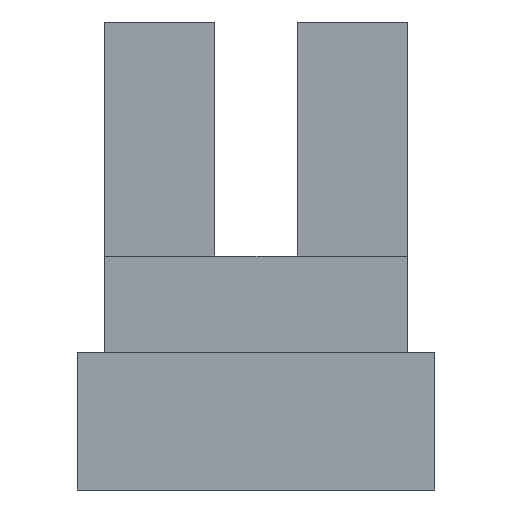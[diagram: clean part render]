
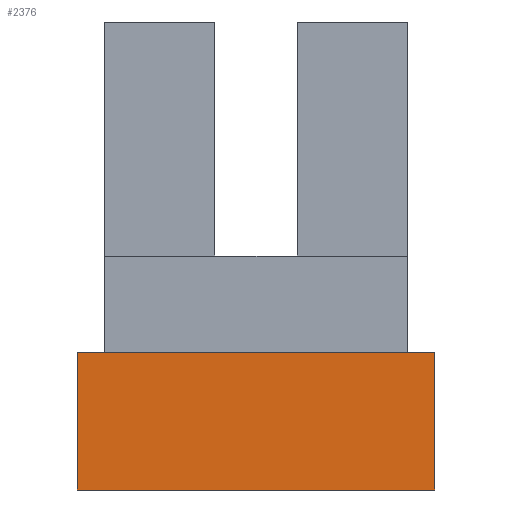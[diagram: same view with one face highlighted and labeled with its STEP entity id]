
A CAD part, left-side view. The second image highlights one B-rep face of the part: STEP entity #2376.
In plain terms, the highlighted planar face has unit normal (-1, 0, 0).
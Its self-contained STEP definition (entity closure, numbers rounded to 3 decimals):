
#1055 = PLANE('',#1056);
#1056 = AXIS2_PLACEMENT_3D('',#1057,#1058,#1059);
#1057 = CARTESIAN_POINT('',(0.,0.,10.));
#1058 = DIRECTION('',(0.,0.,1.));
#1059 = DIRECTION('',(1.,0.,-0.));
#1975 = EDGE_CURVE('',#1976,#1978,#1980,.T.);
#1976 = VERTEX_POINT('',#1977);
#1977 = CARTESIAN_POINT('',(0.,0.,10.));
#1978 = VERTEX_POINT('',#1979);
#1979 = CARTESIAN_POINT('',(0.,26.,10.));
#1980 = SURFACE_CURVE('',#1981,(#1985,#1992),.PCURVE_S1.);
#1981 = LINE('',#1982,#1983);
#1982 = CARTESIAN_POINT('',(0.,0.,10.));
#1983 = VECTOR('',#1984,1.);
#1984 = DIRECTION('',(-0.,1.,0.));
#1985 = PCURVE('',#1055,#1986);
#1986 = DEFINITIONAL_REPRESENTATION('',(#1987),#1991);
#1987 = LINE('',#1988,#1989);
#1988 = CARTESIAN_POINT('',(0.,0.));
#1989 = VECTOR('',#1990,1.);
#1990 = DIRECTION('',(0.,1.));
#1991 = ( GEOMETRIC_REPRESENTATION_CONTEXT(2) 
PARAMETRIC_REPRESENTATION_CONTEXT() REPRESENTATION_CONTEXT('2D SPACE',''
  ) );
#1992 = PCURVE('',#1993,#1998);
#1993 = PLANE('',#1994);
#1994 = AXIS2_PLACEMENT_3D('',#1995,#1996,#1997);
#1995 = CARTESIAN_POINT('',(0.,0.,0.));
#1996 = DIRECTION('',(1.,0.,-0.));
#1997 = DIRECTION('',(0.,0.,1.));
#1998 = DEFINITIONAL_REPRESENTATION('',(#1999),#2003);
#1999 = LINE('',#2000,#2001);
#2000 = CARTESIAN_POINT('',(10.,0.));
#2001 = VECTOR('',#2002,1.);
#2002 = DIRECTION('',(0.,-1.));
#2003 = ( GEOMETRIC_REPRESENTATION_CONTEXT(2) 
PARAMETRIC_REPRESENTATION_CONTEXT() REPRESENTATION_CONTEXT('2D SPACE',''
  ) );
#2021 = PLANE('',#2022);
#2022 = AXIS2_PLACEMENT_3D('',#2023,#2024,#2025);
#2023 = CARTESIAN_POINT('',(0.,0.,0.));
#2024 = DIRECTION('',(-0.,1.,0.));
#2025 = DIRECTION('',(0.,0.,1.));
#2075 = PLANE('',#2076);
#2076 = AXIS2_PLACEMENT_3D('',#2077,#2078,#2079);
#2077 = CARTESIAN_POINT('',(0.,26.,0.));
#2078 = DIRECTION('',(-0.,1.,0.));
#2079 = DIRECTION('',(0.,0.,1.));
#2376 = ADVANCED_FACE('',(#2377),#1993,.F.);
#2377 = FACE_BOUND('',#2378,.F.);
#2378 = EDGE_LOOP('',(#2379,#2402,#2430,#2451));
#2379 = ORIENTED_EDGE('',*,*,#2380,.F.);
#2380 = EDGE_CURVE('',#2381,#1976,#2383,.T.);
#2381 = VERTEX_POINT('',#2382);
#2382 = CARTESIAN_POINT('',(0.,0.,0.));
#2383 = SURFACE_CURVE('',#2384,(#2388,#2395),.PCURVE_S1.);
#2384 = LINE('',#2385,#2386);
#2385 = CARTESIAN_POINT('',(0.,0.,0.));
#2386 = VECTOR('',#2387,1.);
#2387 = DIRECTION('',(0.,0.,1.));
#2388 = PCURVE('',#1993,#2389);
#2389 = DEFINITIONAL_REPRESENTATION('',(#2390),#2394);
#2390 = LINE('',#2391,#2392);
#2391 = CARTESIAN_POINT('',(0.,0.));
#2392 = VECTOR('',#2393,1.);
#2393 = DIRECTION('',(1.,0.));
#2394 = ( GEOMETRIC_REPRESENTATION_CONTEXT(2) 
PARAMETRIC_REPRESENTATION_CONTEXT() REPRESENTATION_CONTEXT('2D SPACE',''
  ) );
#2395 = PCURVE('',#2021,#2396);
#2396 = DEFINITIONAL_REPRESENTATION('',(#2397),#2401);
#2397 = LINE('',#2398,#2399);
#2398 = CARTESIAN_POINT('',(0.,0.));
#2399 = VECTOR('',#2400,1.);
#2400 = DIRECTION('',(1.,0.));
#2401 = ( GEOMETRIC_REPRESENTATION_CONTEXT(2) 
PARAMETRIC_REPRESENTATION_CONTEXT() REPRESENTATION_CONTEXT('2D SPACE',''
  ) );
#2402 = ORIENTED_EDGE('',*,*,#2403,.T.);
#2403 = EDGE_CURVE('',#2381,#2404,#2406,.T.);
#2404 = VERTEX_POINT('',#2405);
#2405 = CARTESIAN_POINT('',(0.,26.,0.));
#2406 = SURFACE_CURVE('',#2407,(#2411,#2418),.PCURVE_S1.);
#2407 = LINE('',#2408,#2409);
#2408 = CARTESIAN_POINT('',(0.,0.,0.));
#2409 = VECTOR('',#2410,1.);
#2410 = DIRECTION('',(-0.,1.,0.));
#2411 = PCURVE('',#1993,#2412);
#2412 = DEFINITIONAL_REPRESENTATION('',(#2413),#2417);
#2413 = LINE('',#2414,#2415);
#2414 = CARTESIAN_POINT('',(0.,0.));
#2415 = VECTOR('',#2416,1.);
#2416 = DIRECTION('',(0.,-1.));
#2417 = ( GEOMETRIC_REPRESENTATION_CONTEXT(2) 
PARAMETRIC_REPRESENTATION_CONTEXT() REPRESENTATION_CONTEXT('2D SPACE',''
  ) );
#2418 = PCURVE('',#2419,#2424);
#2419 = PLANE('',#2420);
#2420 = AXIS2_PLACEMENT_3D('',#2421,#2422,#2423);
#2421 = CARTESIAN_POINT('',(0.,0.,0.));
#2422 = DIRECTION('',(0.,0.,1.));
#2423 = DIRECTION('',(1.,0.,-0.));
#2424 = DEFINITIONAL_REPRESENTATION('',(#2425),#2429);
#2425 = LINE('',#2426,#2427);
#2426 = CARTESIAN_POINT('',(0.,0.));
#2427 = VECTOR('',#2428,1.);
#2428 = DIRECTION('',(0.,1.));
#2429 = ( GEOMETRIC_REPRESENTATION_CONTEXT(2) 
PARAMETRIC_REPRESENTATION_CONTEXT() REPRESENTATION_CONTEXT('2D SPACE',''
  ) );
#2430 = ORIENTED_EDGE('',*,*,#2431,.T.);
#2431 = EDGE_CURVE('',#2404,#1978,#2432,.T.);
#2432 = SURFACE_CURVE('',#2433,(#2437,#2444),.PCURVE_S1.);
#2433 = LINE('',#2434,#2435);
#2434 = CARTESIAN_POINT('',(0.,26.,0.));
#2435 = VECTOR('',#2436,1.);
#2436 = DIRECTION('',(0.,0.,1.));
#2437 = PCURVE('',#1993,#2438);
#2438 = DEFINITIONAL_REPRESENTATION('',(#2439),#2443);
#2439 = LINE('',#2440,#2441);
#2440 = CARTESIAN_POINT('',(0.,-26.));
#2441 = VECTOR('',#2442,1.);
#2442 = DIRECTION('',(1.,0.));
#2443 = ( GEOMETRIC_REPRESENTATION_CONTEXT(2) 
PARAMETRIC_REPRESENTATION_CONTEXT() REPRESENTATION_CONTEXT('2D SPACE',''
  ) );
#2444 = PCURVE('',#2075,#2445);
#2445 = DEFINITIONAL_REPRESENTATION('',(#2446),#2450);
#2446 = LINE('',#2447,#2448);
#2447 = CARTESIAN_POINT('',(0.,0.));
#2448 = VECTOR('',#2449,1.);
#2449 = DIRECTION('',(1.,0.));
#2450 = ( GEOMETRIC_REPRESENTATION_CONTEXT(2) 
PARAMETRIC_REPRESENTATION_CONTEXT() REPRESENTATION_CONTEXT('2D SPACE',''
  ) );
#2451 = ORIENTED_EDGE('',*,*,#1975,.F.);
